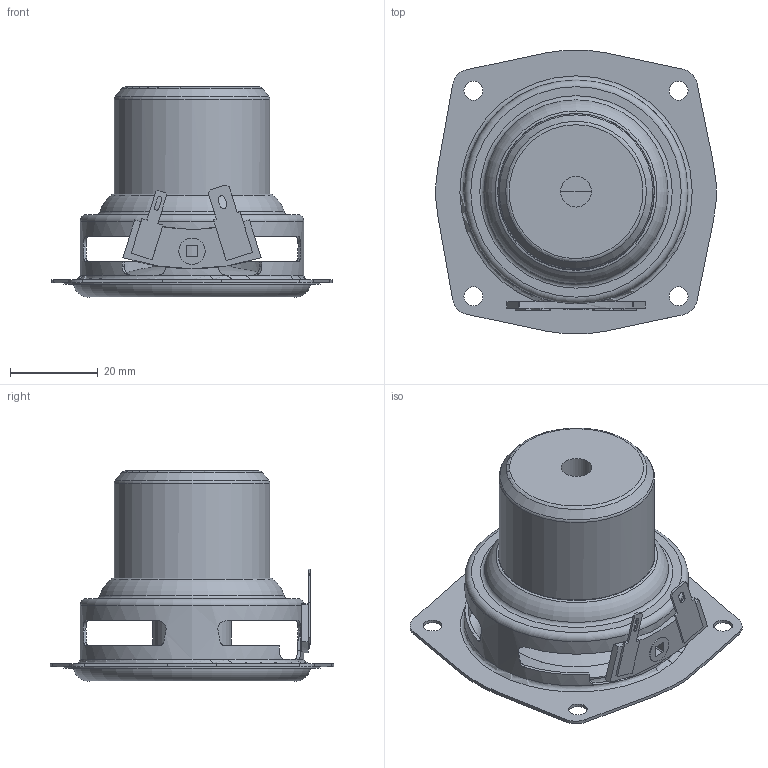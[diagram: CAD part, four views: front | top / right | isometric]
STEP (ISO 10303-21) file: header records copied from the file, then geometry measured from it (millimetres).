
FILE_DESCRIPTION(/* description */ (''),/* implementation_level */ '2;1');
FILE_NAME(/* name */ 'ND65-4 and 8.step',/* time_stamp */ '2025-11-20T11:15:11-05:00',/* author */ (''),/* organization */ (''),/* preprocessor_version */ 'ST-DEVELOPER v20.1',/* originating_system */ 'Autodesk Translation Framework v14.21.0.0',/* authorisation */ '');
FILE_SCHEMA (('AUTOMOTIVE_DESIGN { 1 0 10303 214 3 1 1 }'));
Length unit declared in the file: millimetre
Products named in the file (1): ND65-8
Bounding box: 63.88 x 64.78 x 47.99 mm (x, y, z)
Volume: 32723.1 mm3; surface area: 29988.2 mm2
Topology: 1 solids, 1 shells, 183 faces, 480 edges, 310 vertices
Faces by surface type: plane 87, cylinder 56, torus 19, bspline 13, cone 8
Full cylindrical faces by diameter (mm): 4.319 x4, 6 x1, 7 x1, 17.955 x1, 30.539 x1, 34 x1, 35.5 x1, 40.896 x1, 48.9 x1, 49.5 x1, 51 x1, 58.5 x1
Entity records: 6867 total; most frequent: CARTESIAN_POINT 2227, DIRECTION 960, ORIENTED_EDGE 958, EDGE_CURVE 479, AXIS2_PLACEMENT_3D 368, VERTEX_POINT 310, LINE 224, VECTOR 224
